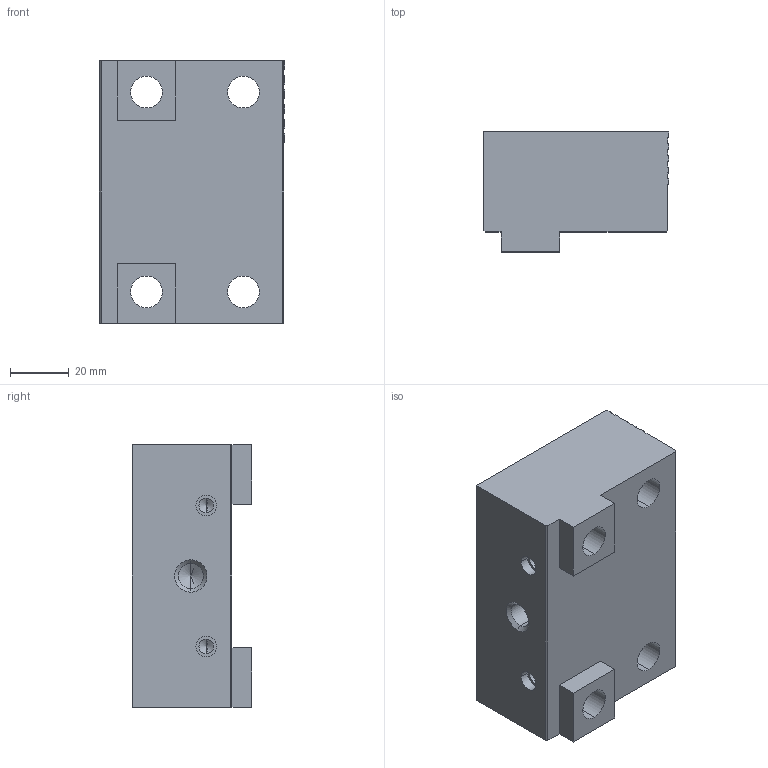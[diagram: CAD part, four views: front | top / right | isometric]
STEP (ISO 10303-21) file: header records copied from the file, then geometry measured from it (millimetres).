
FILE_DESCRIPTION (( 'STEP AP203' ), '1' );
FILE_NAME ('6921674005740.STEP', '2008-12-15T09:01:38', ( ' ' ), ( '' ), 'SwSTEP 2.0', 'SolidWorks 2008', '' );
FILE_SCHEMA (( 'CONFIG_CONTROL_DESIGN' ));
Length unit declared in the file: millimetre
Products named in the file (2): 6921674005740; 6921674005740_Kundenmodell
Assembly tree (1 placements, depth 2):
  6921674005740
    6921674005740_Kundenmodell
Bounding box: 63 x 40.8 x 89.5 mm (x, y, z)
Volume: 174693.7 mm3; surface area: 28975.6 mm2
Topology: 1 solids, 1 shells, 175 faces, 445 edges, 291 vertices
Faces by surface type: plane 141, cylinder 26, cone 8
Entity records: 5379 total; most frequent: CARTESIAN_POINT 909, ORIENTED_EDGE 878, DIRECTION 851, EDGE_CURVE 439, VECTOR 385, LINE 385, VERTEX_POINT 291, AXIS2_PLACEMENT_3D 233
